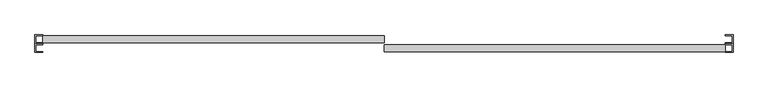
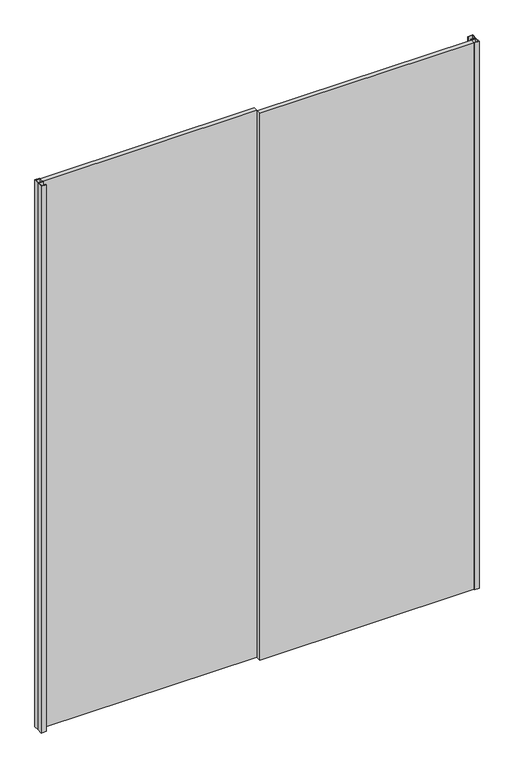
"""IFC4 building model written with IfcOpenShell, lengths in millimetres: furniture geometry, ARQ-MB-IN-Mad-Me2 : ARQ-MB-IN-Mad-Me."""

from ifc_helpers import new_model, si_unit, origin, origin_with_axes, place, context, project, spatial, polyline, outline, extrude, source, transform, mapped, element, save


def furniture_471fc760(model_context):
    return source(origin(), model_context, "Body", "SweptSolid", [
        extrude(outline(polyline([(821.7003264, -378.0), (44.7003264, -378.0), (44.7003264, -362.0), (821.7003264, -362.0), (821.7003264, -378.0)])), origin_with_axes(), (0.0, 0.0, 1.0), 2100.0),
        extrude(outline(polyline([(839.7003264, -360.0), (839.7003264, -380.0), (821.7003264, -380.0), (821.7003264, -378.0), (837.7003264, -378.0), (837.7003264, -362.0), (821.7003264, -362.0), (821.7003264, -360.0), (839.7003264, -360.0)])), origin_with_axes(), (0.0, 0.0, 1.0), 2100.0),
        extrude(outline(polyline([(839.7003264, -340.0), (839.7003264, -360.0), (821.7003264, -360.0), (821.7003264, -358.0), (837.7003264, -358.0), (837.7003264, -342.0), (821.7003264, -342.0), (821.7003264, -340.0), (839.7003264, -340.0)])), origin_with_axes(), (0.0, 0.0, 1.0), 2100.0),
        extrude(outline(polyline([(-750.2996736, -380.0), (-750.2996736, -360.0), (-732.2996736, -360.0), (-732.2996736, -362.0), (-748.2996736, -362.0), (-748.2996736, -378.0), (-732.2996736, -378.0), (-732.2996736, -380.0), (-750.2996736, -380.0)])), origin_with_axes(), (0.0, 0.0, 1.0), 2100.0),
        extrude(outline(polyline([(-732.2996736, -340.0), (-732.2996736, -342.0), (-748.2996736, -342.0), (-748.2996736, -358.0), (-732.2996736, -358.0), (-732.2996736, -360.0), (-750.2996736, -360.0), (-750.2996736, -340.0), (-732.2996736, -340.0)])), origin_with_axes(), (0.0, 0.0, 1.0), 2100.0),
        extrude(outline(polyline([(44.7003264, -358.0), (-732.2996736, -358.0), (-732.2996736, -342.0), (44.7003264, -342.0), (44.7003264, -358.0)])), origin_with_axes(), (0.0, 0.0, 1.0), 2100.0),
    ])


if __name__ == "__main__":
    model = new_model("IFC4")
    model_context = context("Model", 3, world=origin())
    ifc_project = project(units=[si_unit("LENGTHUNIT", "METRE", prefix="MILLI")], contexts=[model_context])
    site = spatial("IfcSite", under=ifc_project)
    building = spatial("IfcBuilding", under=site)
    placement = place(None, origin())
    furniture_shape = furniture_471fc760(model_context)
    element("IfcFurniture", 1, ObjectType="ARQ-MB-IN-Mad-Me2 : ARQ-MB-IN-Mad-Me", at=placement, inside=building, context=model_context, shape_type="MappedRepresentation", body=[
        mapped(furniture_shape, transform((0.0, 0.0, 0.0), x_axis=(1.0, 0.0, 0.0), y_axis=(0.0, 1.0, 0.0), z_axis=(0.0, 0.0, 1.0))),
    ])
    save(model, "model.ifc")
